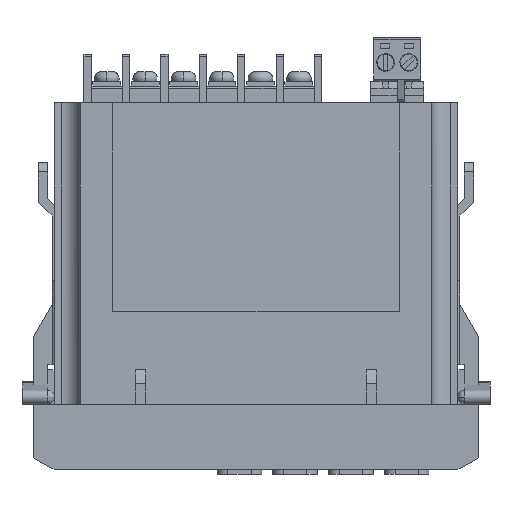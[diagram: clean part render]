
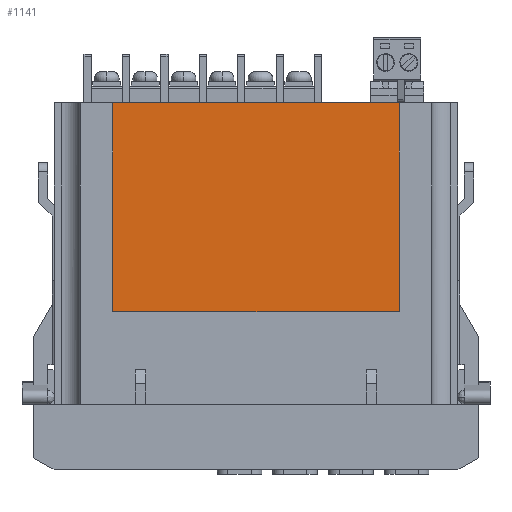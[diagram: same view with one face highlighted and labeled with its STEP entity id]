
A CAD part, front view. The second image highlights one B-rep face of the part: STEP entity #1141.
In plain terms, the highlighted planar face has unit normal (0, -1, 0).
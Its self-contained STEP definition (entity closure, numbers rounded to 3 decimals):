
#1141 = ADVANCED_FACE ( 'NONE', ( #71933 ), #44509, .T. ) ;
#3973 = AXIS2_PLACEMENT_3D ( 'NONE', #10844, #60849, #38933 ) ;
#10844 = CARTESIAN_POINT ( 'NONE',  ( 0., -55.55, 0. ) ) ;
#12718 = CARTESIAN_POINT ( 'NONE',  ( -39.425, -55.55, -45. ) ) ;
#16987 = ORIENTED_EDGE ( 'NONE', *, *, #18848, .T. ) ;
#17869 = ORIENTED_EDGE ( 'NONE', *, *, #43766, .T. ) ;
#18474 = CARTESIAN_POINT ( 'NONE',  ( -39.425, -55.55, -45. ) ) ;
#18848 = EDGE_CURVE ( 'NONE', #19518, #29156, #28354, .T. ) ;
#19513 = VERTEX_POINT ( 'NONE', #36765 ) ;
#19518 = VERTEX_POINT ( 'NONE', #64060 ) ;
#23890 = EDGE_LOOP ( 'NONE', ( #16987, #30500, #17869, #42296 ) ) ;
#28354 = LINE ( 'NONE', #54816, #71124 ) ;
#29156 = VERTEX_POINT ( 'NONE', #63098 ) ;
#30500 = ORIENTED_EDGE ( 'NONE', *, *, #32133, .T. ) ;
#32133 = EDGE_CURVE ( 'NONE', #29156, #19513, #37371, .T. ) ;
#33757 = VECTOR ( 'NONE', #57031, 1000. ) ;
#34884 = VERTEX_POINT ( 'NONE', #12718 ) ;
#36765 = CARTESIAN_POINT ( 'NONE',  ( -39.425, -55.55, 0. ) ) ;
#37371 = LINE ( 'NONE', #57189, #43432 ) ;
#38933 = DIRECTION ( 'NONE',  ( 0., 0., -1. ) ) ;
#40410 = LINE ( 'NONE', #53652, #68358 ) ;
#42296 = ORIENTED_EDGE ( 'NONE', *, *, #57936, .T. ) ;
#43432 = VECTOR ( 'NONE', #52535, 1000. ) ;
#43766 = EDGE_CURVE ( 'NONE', #19513, #34884, #40410, .T. ) ;
#43828 = DIRECTION ( 'NONE',  ( 0., 0., 1. ) ) ;
#44509 = PLANE ( 'NONE',  #3973 ) ;
#47818 = DIRECTION ( 'NONE',  ( 0., 0., -1. ) ) ;
#48589 = LINE ( 'NONE', #18474, #33757 ) ;
#52535 = DIRECTION ( 'NONE',  ( -1., 0., 0. ) ) ;
#53652 = CARTESIAN_POINT ( 'NONE',  ( -39.425, -55.55, 0. ) ) ;
#54816 = CARTESIAN_POINT ( 'NONE',  ( 22.275, -55.55, -45. ) ) ;
#57031 = DIRECTION ( 'NONE',  ( 1., 0., 0. ) ) ;
#57189 = CARTESIAN_POINT ( 'NONE',  ( -50.456, -55.55, 0. ) ) ;
#57936 = EDGE_CURVE ( 'NONE', #34884, #19518, #48589, .T. ) ;
#60849 = DIRECTION ( 'NONE',  ( 0., -1., 0. ) ) ;
#63098 = CARTESIAN_POINT ( 'NONE',  ( 22.275, -55.55, 0. ) ) ;
#64060 = CARTESIAN_POINT ( 'NONE',  ( 22.275, -55.55, -45. ) ) ;
#68358 = VECTOR ( 'NONE', #47818, 1000. ) ;
#71124 = VECTOR ( 'NONE', #43828, 1000. ) ;
#71933 = FACE_OUTER_BOUND ( 'NONE', #23890, .T. ) ;
